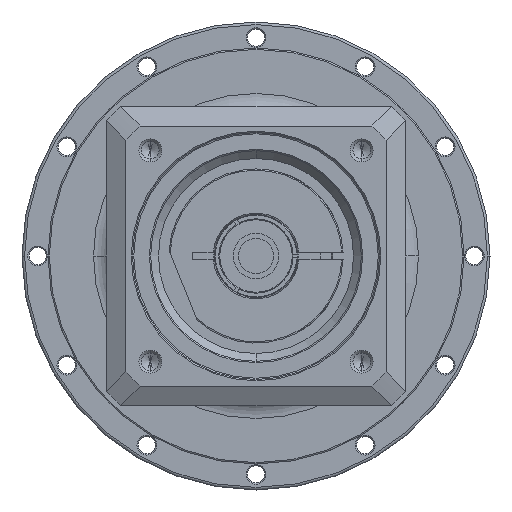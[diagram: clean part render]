
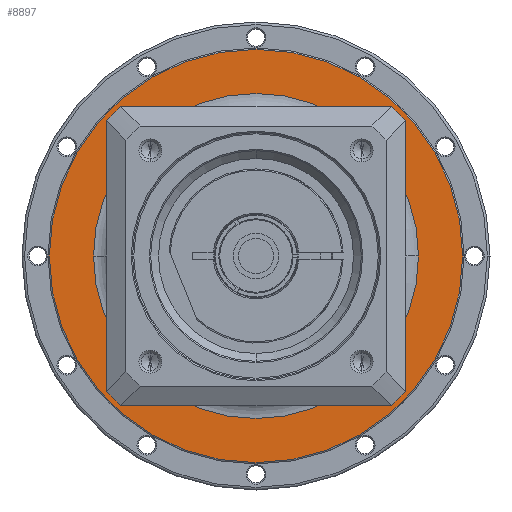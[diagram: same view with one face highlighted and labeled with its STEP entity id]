
A CAD part, left-side view. The second image highlights one B-rep face of the part: STEP entity #8897.
In plain terms, the highlighted planar face has unit normal (-1, 0, 0) as drawn and (1, 0, 0) by its records, which use the part's own axes.
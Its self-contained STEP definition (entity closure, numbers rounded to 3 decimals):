
#7928=CARTESIAN_POINT('',(-19.5,0.,0.));
#7929=DIRECTION('',(-1.,0.,0.));
#7930=DIRECTION('',(0.,-1.,0.));
#7931=AXIS2_PLACEMENT_3D('',#7928,#7929,#7930);
#7933=CARTESIAN_POINT('',(-19.5,0.,0.));
#7934=DIRECTION('',(-1.,0.,0.));
#7935=DIRECTION('',(0.,1.,0.));
#7936=AXIS2_PLACEMENT_3D('',#7933,#7934,#7935);
#7938=CARTESIAN_POINT('',(-19.5,0.,0.));
#7939=DIRECTION('',(-1.,0.,0.));
#7940=DIRECTION('',(0.,-1.,0.));
#7941=AXIS2_PLACEMENT_3D('',#7938,#7939,#7940);
#7943=CARTESIAN_POINT('',(-19.5,0.,0.));
#7944=DIRECTION('',(-1.,0.,0.));
#7945=DIRECTION('',(0.,1.,0.));
#7946=AXIS2_PLACEMENT_3D('',#7943,#7944,#7945);
#8190=CARTESIAN_POINT('',(-19.5,-79.5,0.));
#8191=CARTESIAN_POINT('',(-19.5,79.5,0.));
#8192=VERTEX_POINT('',#8190);
#8193=VERTEX_POINT('',#8191);
#8248=CARTESIAN_POINT('',(-19.5,-62.5,0.));
#8249=CARTESIAN_POINT('',(-19.5,62.5,0.));
#8250=VERTEX_POINT('',#8248);
#8251=VERTEX_POINT('',#8249);
#8882=CARTESIAN_POINT('',(-19.5,0.,0.));
#8883=DIRECTION('',(1.,0.,0.));
#8884=DIRECTION('',(0.,-1.,0.));
#8885=AXIS2_PLACEMENT_3D('',#8882,#8883,#8884);
#8886=PLANE('',#8885);
#8887=ORIENTED_EDGE('',*,*,#8838,.T.);
#8888=ORIENTED_EDGE('',*,*,#8823,.T.);
#8889=EDGE_LOOP('',(#8887,#8888));
#8890=FACE_OUTER_BOUND('',#8889,.F.);
#8892=ORIENTED_EDGE('',*,*,#8891,.F.);
#8894=ORIENTED_EDGE('',*,*,#8893,.F.);
#8895=EDGE_LOOP('',(#8892,#8894));
#8896=FACE_BOUND('',#8895,.F.);
#8897=ADVANCED_FACE('',(#8890,#8896),#8886,.T.);
#7932=CIRCLE('',#7931,62.5);
#7937=CIRCLE('',#7936,62.5);
#7942=CIRCLE('',#7941,79.5);
#7947=CIRCLE('',#7946,79.5);
#8823=EDGE_CURVE('',#8193,#8192,#7947,.T.);
#8838=EDGE_CURVE('',#8192,#8193,#7942,.T.);
#8891=EDGE_CURVE('',#8250,#8251,#7932,.T.);
#8893=EDGE_CURVE('',#8251,#8250,#7937,.T.);
